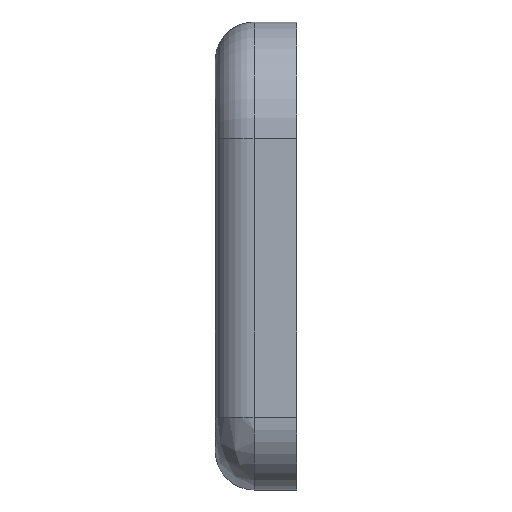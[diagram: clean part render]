
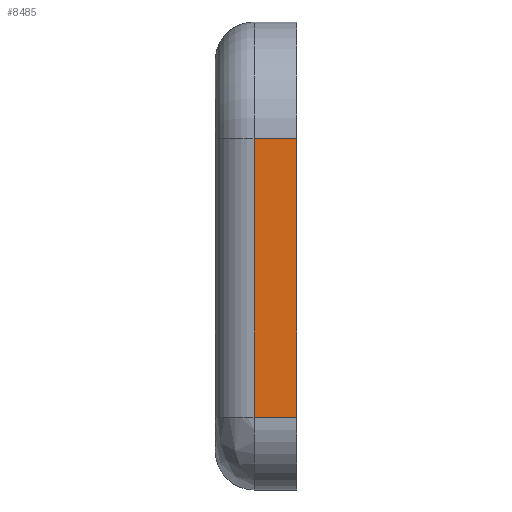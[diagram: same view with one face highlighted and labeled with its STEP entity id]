
A CAD part, left-side view. The second image highlights one B-rep face of the part: STEP entity #8485.
In plain terms, the highlighted planar face has unit normal (-1, 0, 0).
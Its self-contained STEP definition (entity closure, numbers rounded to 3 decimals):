
#1=DIRECTION('',(0.,0.,1.));
#2=VECTOR('',#1,57.56);
#3=CARTESIAN_POINT('',(-66.889,8.8,-36.488));
#4=LINE('',#3,#2);
#5=DIRECTION('',(0.,0.,1.));
#6=VECTOR('',#5,57.56);
#7=CARTESIAN_POINT('',(-66.889,0.,-36.488));
#8=LINE('',#7,#6);
#9=DIRECTION('',(0.,1.,0.));
#10=VECTOR('',#9,8.8);
#11=CARTESIAN_POINT('',(-66.889,0.,-36.488));
#12=LINE('',#11,#10);
#1792=DIRECTION('',(0.,1.,0.));
#1793=VECTOR('',#1792,8.8);
#1794=CARTESIAN_POINT('',(-66.889,0.,21.073));
#1795=LINE('',#1794,#1793);
#6644=CARTESIAN_POINT('',(-66.889,0.,-36.488));
#6645=CARTESIAN_POINT('',(-66.889,0.,21.073));
#6646=VERTEX_POINT('',#6644);
#6647=VERTEX_POINT('',#6645);
#6686=CARTESIAN_POINT('',(-66.889,8.8,21.073));
#6687=VERTEX_POINT('',#6686);
#6690=CARTESIAN_POINT('',(-66.889,8.8,-36.488));
#6691=VERTEX_POINT('',#6690);
#8470=CARTESIAN_POINT('',(-66.889,0.,-51.488));
#8471=DIRECTION('',(-1.,0.,0.));
#8472=DIRECTION('',(0.,0.,1.));
#8473=AXIS2_PLACEMENT_3D('',#8470,#8471,#8472);
#8474=PLANE('',#8473);
#8476=ORIENTED_EDGE('',*,*,#8475,.T.);
#8478=ORIENTED_EDGE('',*,*,#8477,.F.);
#8480=ORIENTED_EDGE('',*,*,#8479,.F.);
#8482=ORIENTED_EDGE('',*,*,#8481,.T.);
#8483=EDGE_LOOP('',(#8476,#8478,#8480,#8482));
#8484=FACE_OUTER_BOUND('',#8483,.F.);
#8485=ADVANCED_FACE('',(#8484),#8474,.T.);
#8475=EDGE_CURVE('',#6691,#6687,#4,.T.);
#8477=EDGE_CURVE('',#6647,#6687,#1795,.T.);
#8479=EDGE_CURVE('',#6646,#6647,#8,.T.);
#8481=EDGE_CURVE('',#6646,#6691,#12,.T.);
